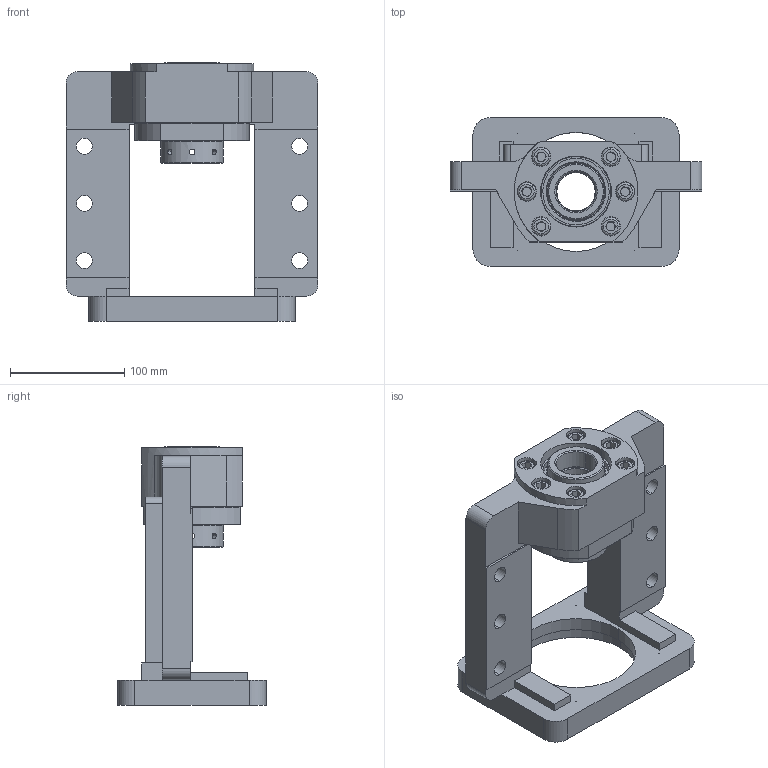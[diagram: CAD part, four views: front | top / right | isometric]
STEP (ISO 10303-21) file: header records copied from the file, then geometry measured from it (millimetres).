
FILE_DESCRIPTION (( 'STEP AP203' ), '1' );
FILE_NAME ('MBCS35L-G.STEP', '2024-10-18T06:41:34', ( '' ), ( '' ), 'SwSTEP 2.0', 'SolidWorks 2018', '' );
FILE_SCHEMA (( 'CONFIG_CONTROL_DESIGN' ));
Length unit declared in the file: millimetre
Products named in the file (1): MBCS35L-G
Bounding box: 220 x 130 x 226 mm (x, y, z)
Surface area: 210892.1 mm2 (no closed solid volume)
Topology: 0 solids, 22 shells, 346 faces, 961 edges, 632 vertices
Faces by surface type: cylinder 129, plane 121, cone 64, torus 20, bspline 12
Entity records: 26566 total; most frequent: CARTESIAN_POINT 17706, DIRECTION 1887, ORIENTED_EDGE 1689, EDGE_CURVE 953, AXIS2_PLACEMENT_3D 727, VERTEX_POINT 632, VECTOR 433, LINE 433
